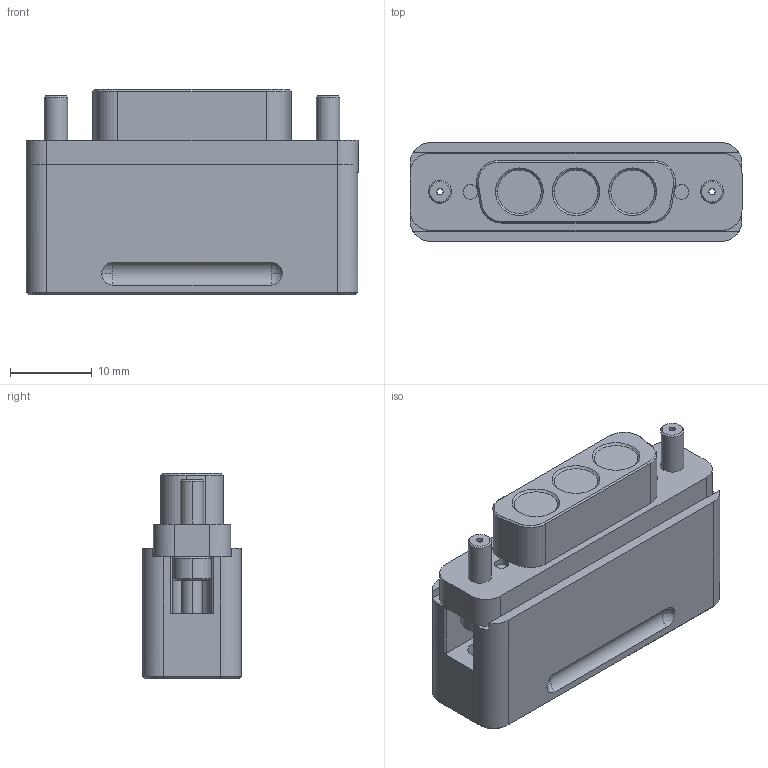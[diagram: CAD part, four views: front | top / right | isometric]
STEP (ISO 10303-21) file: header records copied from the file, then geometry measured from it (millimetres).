
FILE_DESCRIPTION (( 'STEP AP203' ), '1' );
FILE_NAME ('100920.stp', '2022-03-22T22:52:58', ( '' ), ( '' ), 'SwSTEP 2.0', 'SolidWorks 2012', '' );
FILE_SCHEMA (( 'CONFIG_CONTROL_DESIGN' ));
Length unit declared in the file: inch
Products named in the file (1): 100920
Bounding box: 40.51 x 12.06 x 25.02 mm (x, y, z)
Volume: 9335.6 mm3; surface area: 4139.1 mm2
Topology: 1 solids, 1 shells, 178 faces, 435 edges, 276 vertices
Faces by surface type: plane 73, cylinder 58, cone 41, bspline 6
Entity records: 5504 total; most frequent: CARTESIAN_POINT 1114, DIRECTION 949, ORIENTED_EDGE 870, EDGE_CURVE 435, AXIS2_PLACEMENT_3D 363, VERTEX_POINT 276, LINE 223, VECTOR 223
